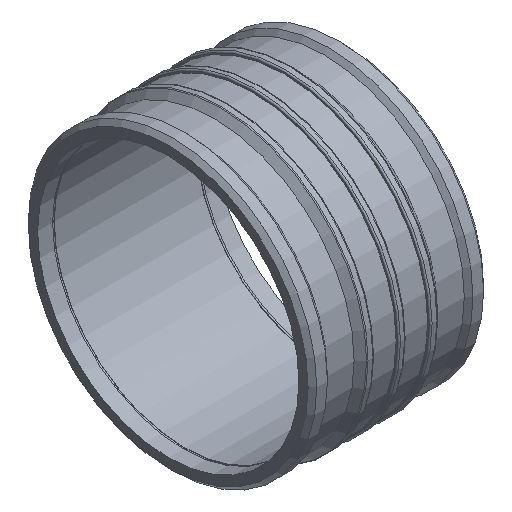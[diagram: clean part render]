
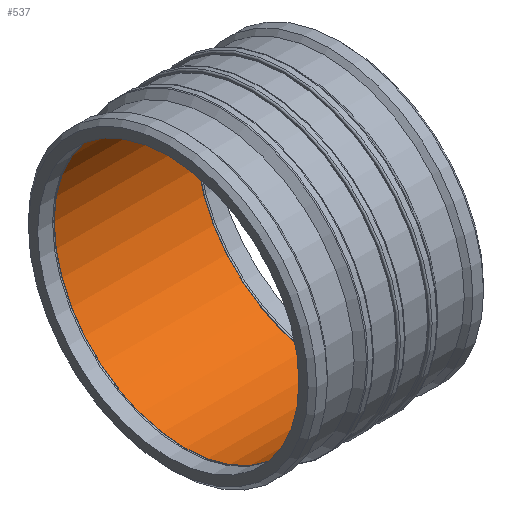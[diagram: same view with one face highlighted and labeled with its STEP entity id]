
A CAD part, isometric view. The second image highlights one B-rep face of the part: STEP entity #537.
In plain terms, the highlighted cylindrical face has radius 280 mm (diameter 560 mm), a full revolution.
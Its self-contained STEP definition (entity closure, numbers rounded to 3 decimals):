
#45=CYLINDRICAL_SURFACE('',#630,280.);
#87=FACE_BOUND('',#230,.T.);
#141=FACE_OUTER_BOUND('',#229,.T.);
#229=EDGE_LOOP('',(#471));
#230=EDGE_LOOP('',(#472));
#279=CIRCLE('',#629,280.);
#280=CIRCLE('',#631,280.);
#325=VERTEX_POINT('',#1030);
#326=VERTEX_POINT('',#1033);
#375=EDGE_CURVE('',#325,#325,#279,.T.);
#376=EDGE_CURVE('',#326,#326,#280,.T.);
#471=ORIENTED_EDGE('',*,*,#375,.T.);
#472=ORIENTED_EDGE('',*,*,#376,.F.);
#537=ADVANCED_FACE('',(#141,#87),#45,.F.);
#629=AXIS2_PLACEMENT_3D('',#1031,#811,#812);
#630=AXIS2_PLACEMENT_3D('',#1032,#813,#814);
#631=AXIS2_PLACEMENT_3D('',#1034,#815,#816);
#811=DIRECTION('center_axis',(1.,0.,0.));
#812=DIRECTION('ref_axis',(0.,0.,-1.));
#813=DIRECTION('center_axis',(1.,0.,0.));
#814=DIRECTION('ref_axis',(0.,1.,0.));
#815=DIRECTION('center_axis',(1.,0.,0.));
#816=DIRECTION('ref_axis',(0.,0.,-1.));
#1030=CARTESIAN_POINT('',(152.384,280.,0.));
#1031=CARTESIAN_POINT('Origin',(152.384,0.,
0.));
#1032=CARTESIAN_POINT('Origin',(-76.192,0.,
0.));
#1033=CARTESIAN_POINT('',(-152.384,280.,0.));
#1034=CARTESIAN_POINT('Origin',(-152.384,0.,
0.));
